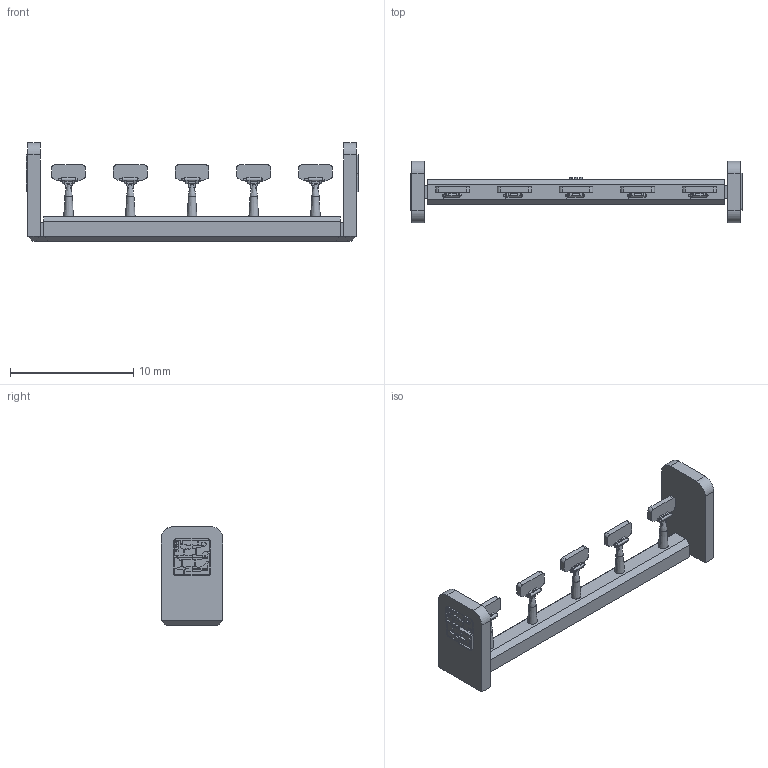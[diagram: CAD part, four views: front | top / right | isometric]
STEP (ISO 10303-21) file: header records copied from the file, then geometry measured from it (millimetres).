
FILE_DESCRIPTION(/* description */ (''),/* implementation_level */ '2;1');
FILE_NAME(/* name */ 'F67357~1',/* time_stamp */ '2021-04-27T23:45:06+02:00',/* author */ (''),/* organization */ (''),/* preprocessor_version */ 'ST-DEVELOPER v16.5',/* originating_system */ '',/* authorisation */ '');
FILE_SCHEMA (('CONFIG_CONTROL_DESIGN'));
Length unit declared in the file: millimetre
Products named in the file (1): Document
Bounding box: 26.9 x 5 x 8 mm (x, y, z)
Volume: 176 mm3; surface area: 486.6 mm2
Topology: 1 solids, 1 shells, 912 faces, 2492 edges, 1599 vertices
Faces by surface type: plane 603, bspline 197, cylinder 112
Entity records: 31785 total; most frequent: CARTESIAN_POINT 15869, ORIENTED_EDGE 4904, EDGE_CURVE 2452, B_SPLINE_CURVE_WITH_KNOTS 1890, VERTEX_POINT 1589, EDGE_LOOP 949, ADVANCED_FACE 902, FACE_OUTER_BOUND 902
